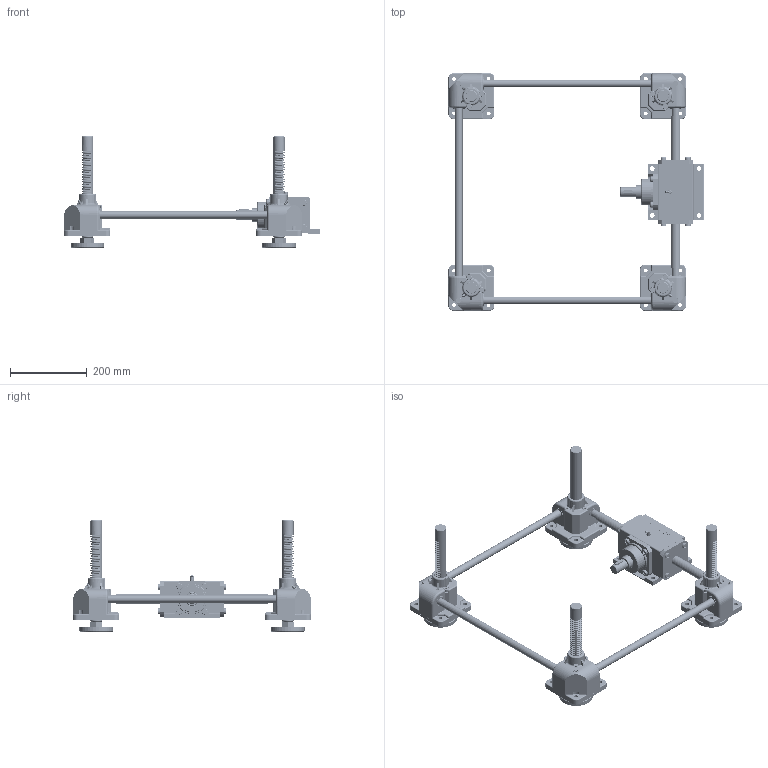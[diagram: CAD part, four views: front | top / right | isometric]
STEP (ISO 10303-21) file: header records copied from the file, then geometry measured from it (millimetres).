
FILE_DESCRIPTION(('STEP AP203'),'1');
FILE_NAME(').stp','2022-06-15T07:59:49',(' '),(' '),'Spatial InterOp 3D',' ',' ');
FILE_SCHEMA(('CONFIG_CONTROL_DESIGN'));
Length unit declared in the file: millimetre
Products named in the file (130): SPB900FU-500x500-250-150ST; ASSEM1; Flange.1-Part; Flange.1; Joint.1; Nut.1; Flange.2-Part; Flange.2; Joint.2; Nut.2; Flange.3-Part; Flange.3; Joint.3; Nut.3; Flange.4-Part; Flange.4; Joint.4; Nut.4; Body.1-Part; Bolt.12; Nipple; Gear Box.1(Upper); Body_stand by; Gear Box.1(Lower); RJ05-4SCJ-610X600-100ST_CAP; LABEL-B.1; ___; 파트18; __ ; Body.2-Part; Gear Box.2(Upper); Gear Box.2(Lower); Body.3-Part; Gear Box.3(Upper); Gear Box.3(Lower); Body.4-Part; Gear Box.4(Upper); Gear Box.4(Lower); Bevel Part(BG05); Bolt-BevelBox.12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
Assembly tree (130 placements, depth 6):
  SPB900FU-500x500-250-150ST
    ASSEM1
    (unnamed)
    (unnamed)
    (unnamed)
    Flange.1-Part
      Flange.1
      Joint.1
      Nut.1
    Flange.2-Part
      Flange.2
      Joint.2
      Nut.2
    Flange.3-Part
      Flange.3
      Joint.3
      Nut.3
    Flange.4-Part
      Flange.4
      Joint.4
      Nut.4
    Body.1-Part
      Bolt.12
      Bolt.12
      Bolt.12
      Nipple
      Gear Box.1(Upper)
        Body_stand by
        Body_stand by
        Body_stand by
        Body_stand by
      Gear Box.1(Lower)
        Body_stand by
        Body_stand by
        Body_stand by
        Body_stand by
      __ 
        ___
          RJ05-4SCJ-610X600-100ST_CAP
            LABEL-B.1
          파트18
    Body.2-Part
      Bolt.12
      Bolt.12
      Bolt.12
      Nipple
      Gear Box.2(Upper)
        Body_stand by
        Body_stand by
        Body_stand by
        Body_stand by
      Gear Box.2(Lower)
        Body_stand by
        Body_stand by
        Body_stand by
        Body_stand by
      __ 
        ___
          RJ05-4SCJ-610X600-100ST_CAP
            LABEL-B.1
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Bounding box: 666.41 x 620.32 x 290 mm (x, y, z)
Volume: 2617374.1 mm3; surface area: 1137480.7 mm2
Topology: 93 solids, 128 shells, 12881 faces, 36432 edges, 23726 vertices
Faces by surface type: plane 10148, cylinder 2014, torus 204, bspline 184, cone 127, sphere 100, extrusion 55, revolution 49
Full cylindrical faces by diameter (mm): 3.113 x4, 4.8 x1, 6 x5, 6.6 x4, 8 x36, 9.5 x12, 9.886 x1, 12 x20, 14 x12, 15 x12, 20 x5, 25 x10, 26 x2, 27 x4, 30 x4, 35 x1, 37 x5, 38 x4, 40 x1, 42 x1, 44 x4, 45 x5, 52 x2, 52.4 x1, 55 x2, 64 x1, 70 x1, 79 x1, 81 x4, 88 x4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
Entity records: 444656 total; most frequent: CARTESIAN_POINT 110830, ORIENTED_EDGE 70714, DIRECTION 62558, EDGE_CURVE 35482, VECTOR 29741, LINE 29686, VERTEX_POINT 23428, AXIS2_PLACEMENT_3D 16384
